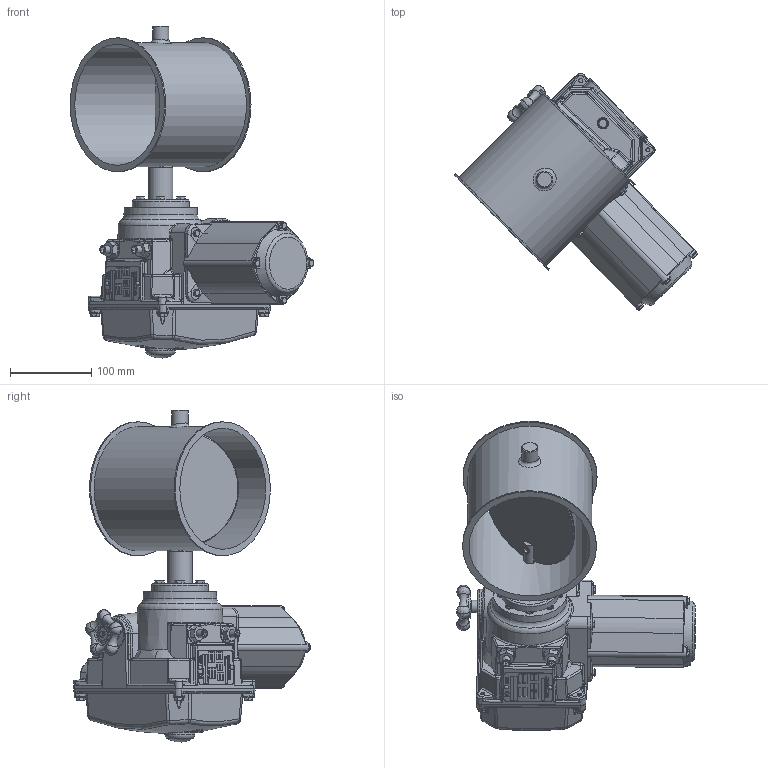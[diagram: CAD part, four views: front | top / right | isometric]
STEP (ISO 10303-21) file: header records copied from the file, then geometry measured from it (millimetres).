
FILE_DESCRIPTION((''),'2;1');
FILE_NAME('U:\Wolfgang\Marcel-3D\fertig\Kapitel 8\1521217.stp','2011-05-03T15:01:55',('TK1'),(''),'Autodesk Inventor 2010','Autodesk Inventor 2010','');
FILE_SCHEMA(('AUTOMOTIVE_DESIGN { 1 0 10303 214 1 1 1 1 }'));
Length unit declared in the file: millimetre
Products named in the file (9): 1521217; Bolzen D15; Scheibe150; DIN 6912 M6 x 16; 1521211-1; D15 Antrieb Le-4; BuchseD15 70-50; DIN EN ISO 4018 M6x25; LEB45cc
Assembly tree (13 placements, depth 3):
  1521217
    Bolzen D15  x2
    Scheibe150
    DIN 6912 M6 x 16  x2
    1521211-1
    D15 Antrieb Le-4
      BuchseD15 70-50
      DIN EN ISO 4018 M6x25  x4
      LEB45cc
Bounding box: 299.94 x 292.1 x 408.82 mm (x, y, z)
Volume: 4299238.4 mm3; surface area: 453200.8 mm2
Topology: 12 solids, 12 shells, 1478 faces, 3728 edges, 2341 vertices
Faces by surface type: plane 750, cylinder 283, bspline 237, torus 82, cone 81, sphere 45
Full cylindrical faces by diameter (mm): 3 x2, 5 x4, 5.1 x8, 6 x14, 6.9 x8, 10 x6, 14 x2, 15 x3, 15.5 x1, 16 x1, 17 x1, 18.6 x2, 20 x1, 24 x1, 30 x2, 35 x1, 42 x1, 70 x1, 145 x1, 149 x1, 153 x1, 165 x2
Entity records: 51139 total; most frequent: CARTESIAN_POINT 19108, ORIENTED_EDGE 6604, DIRECTION 5780, EDGE_CURVE 3302, VERTEX_POINT 2173, AXIS2_PLACEMENT_3D 2030, VECTOR 1720, LINE 1720
